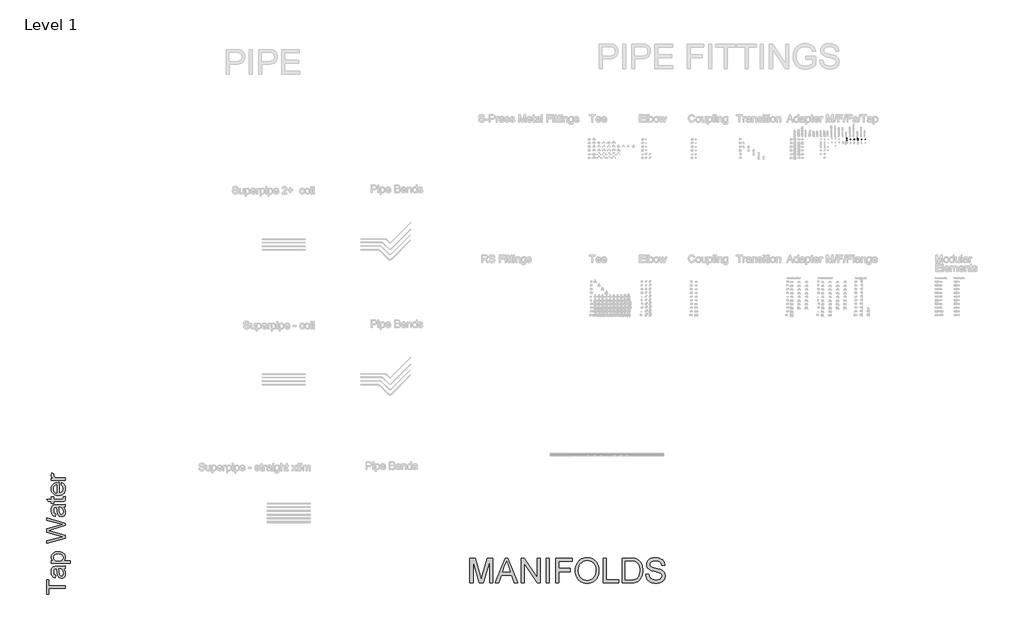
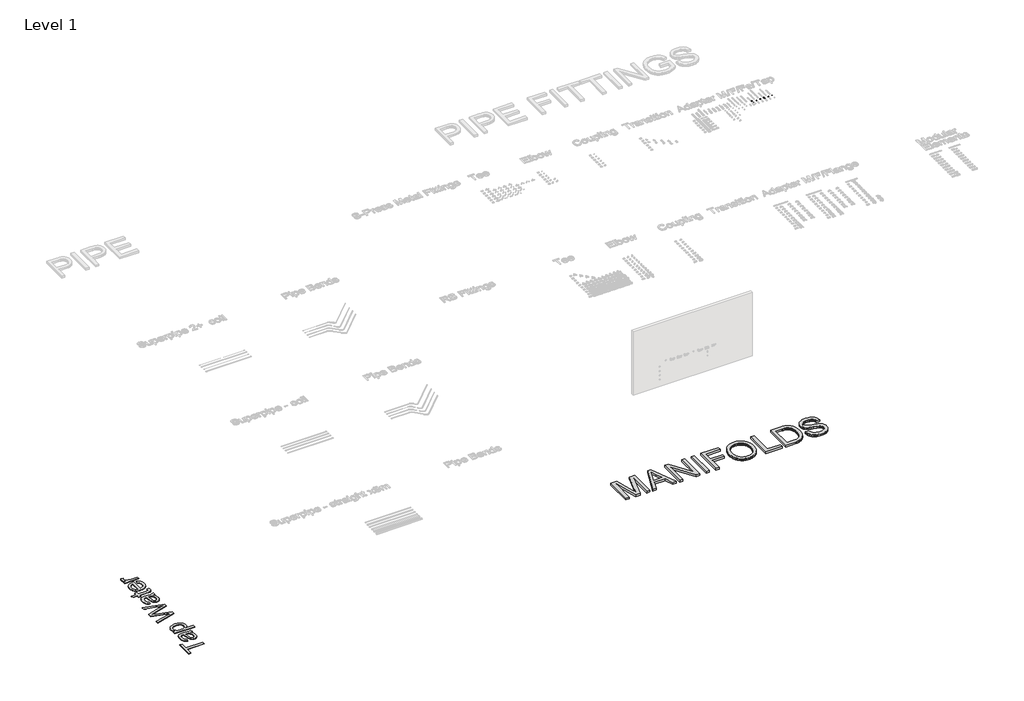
# One storey, part 7 of 57: 17 pipe fittings, 2 proxies.
"""IFC4 building model written with IfcOpenShell, lengths in millimetres."""

from ifc_helpers import new_model, si_unit, frame, origin, place, context, project, spatial, polyline, outline, extrude, transform, mapped, element, save
from components import pipe_fitting_ba7d6cd7, pipe_fitting_831a4182, pipe_fitting_687f7d2e, pipe_fitting_fd43bd29, pipe_fitting_d8af90f1, pipe_fitting_2b53eb9e, pipe_fitting_0ffa7dfd, manifold_cap_ft_4510c732, pipe_fitting_483da3ce

model = new_model("IFC4")

# Units and contexts
model_context = context("Model", 3, world=origin())
ifc_project = project(units=[si_unit("LENGTHUNIT", "METRE", prefix="MILLI")], contexts=[model_context])

# Site, building, storey
site = spatial("IfcSite", under=ifc_project)
building = spatial("IfcBuilding", under=site)
storey = spatial("IfcBuildingStorey", under=building, Name="Level 1", Elevation=27.3876384)

# Proxies
placement = place(None, origin())
element("IfcBuildingElementProxy", 1, Name="1500mm Arial - color", ObjectType="1500mm Arial - color", at=placement, inside=storey, context=model_context, shape_type="SweptSolid", body=[
    extrude(outline(polyline([(-29682.7797946, -6207.3028458), (-31001.2688653, -6207.3028458), (-31001.2688653, -6701.7362473), (-31189.6244468, -6701.7362473), (-31189.6244468, -5524.5138628), (-31001.2688653, -5524.5138628), (-31001.2688653, -6018.9472643), (-29682.7797946, -6018.9472643), (-29682.7797946, -6207.3028458)])), frame((0.0, 0.0, 27.3876384), z_axis=(0.0, 0.0, 1.0), x_axis=(1.0, 0.0, 0.0)), (0.0, 0.0, 1.0), 30.0),
    extrude(outline(polyline([(-29824.0464807, -4629.8248505), (-29782.1309259, -4674.488024), (-29746.8832322, -4719.8179836), (-29718.3033997, -4765.8147293), (-29696.3914284, -4812.4782611), (-29680.1356427, -4860.3374094), (-29668.5243673, -4909.9210046), (-29661.557602, -4961.2290466), (-29659.2353469, -5014.2615355), (-29664.8225547, -5098.127134), (-29671.8065644, -5136.1885502), (-29681.5841781, -5171.6690441), (-29694.1553956, -5204.568616), (-29709.5202171, -5234.8872658), (-29727.6786424, -5262.6249934), (-29748.6306717, -5287.7817989), (-29771.755504, -5310.1564968), (-29796.4323384, -5329.5479016), (-29822.6611751, -5345.9560134), (-29850.4420139, -5359.3808322), (-29879.7748548, -5369.8223579), (-29910.659698, -5377.2805905), (-29977.0853907, -5383.2471766), (-30017.0235798, -5380.9938994), (-30055.1683442, -5374.2340677), (-30091.5196838, -5362.9676816), (-30126.0775988, -5347.1947411), (-30158.0833323, -5327.7544769), (-30186.778128, -5305.4861199), (-30212.1619856, -5280.38967), (-30234.2349053, -5252.4651273), (-30270.1033999, -5190.1551144), (-30296.0390805, -5120.5794321), (-30310.4784488, -5052.7971745), (-30324.3659942, -4957.6077082), (-30338.6214215, -4854.0029413), (-30354.1644358, -4765.0214837), (-30370.995037, -4690.6633355), (-30389.1132253, -4630.9284965), (-30431.0517728, -4629.8248505), (-30476.7151254, -4633.0668106), (-30515.1128087, -4642.7926908), (-30546.2448225, -4659.0024912), (-30570.1111669, -4681.6962118), (-30593.9315261, -4720.9216296), (-30610.9460684, -4768.7003037), (-30621.1547938, -4825.0322342), (-30624.5577022, -4889.9174211), (-30622.2929287, -4950.2500683), (-30615.4986081, -5002.1214296), (-30604.1747404, -5045.531505), (-30588.3213257, -5080.4802946), (-30566.6967622, -5109.1980828), (-30538.0594481, -5133.9151544), (-30502.4093835, -5154.6315092), (-30459.7465684, -5171.3471474), (-30483.2910161, -5359.7027289), (-30537.5536104, -5345.3668274), (-30586.2979747, -5327.0072166), (-30629.5241092, -5304.6238965), (-30667.2320137, -5278.216867), (-30700.1804448, -5246.6479933), (-30729.1281593, -5208.7791404), (-30754.0751571, -5164.6103084), (-30775.0214382, -5114.1414972), (-30791.5991207, -5058.3958786), (-30803.4403224, -4998.3966244), (-30810.5450434, -4934.1437347), (-30812.9132837, -4865.6372094), (-30810.8209549, -4798.67119), (-30804.5439684, -4738.3040538), (-30794.0823241, -4684.535801), (-30779.4360222, -4637.3664314), (-30761.6282344, -4596.4050705), (-30741.6821324, -4561.2608436), (-30719.5977164, -4531.9337508), (-30695.3749863, -4508.4237921), (-30668.4161338, -4489.3629062), (-30638.1233508, -4473.3830321), (-30604.4966372, -4460.4841696), (-30567.535993, -4450.6663188), (-30502.4208798, -4443.7685314), (-30402.7248591, -4441.469269), (-30168.3840282, -4441.469269), (-29964.2555061, -4439.078036), (-29841.1529935, -4431.9043371), (-29760.2649398, -4417.7408803), (-29682.7797946, -4394.3803736), (-29682.7797946, -4582.7359551), (-29714.2337052, -4599.4745859), (-29748.2627897, -4612.9022787), (-29784.8670482, -4623.0190336), (-29824.0464807, -4629.8248505)]), holes=[polyline([(-30200.7576438, -4629.8248505), (-30184.4558729, -4686.7545893), (-30169.3957037, -4756.3762568), (-30143.0001705, -4933.6953785), (-30128.5608022, -5031.4140335), (-30112.4659649, -5095.7473974), (-30091.5886617, -5137.9158711), (-30078.1839615, -5154.8959244), (-30062.8018956, -5169.1398554), (-30045.9942869, -5180.4062415), (-30028.3129585, -5188.4536602), (-30009.7579104, -5193.2821114), (-29990.3291425, -5194.8915951), (-29961.0595313, -5191.3852198), (-29934.3191088, -5180.866094), (-29910.107875, -5163.3342177), (-29888.4258299, -5138.7895908), (-29870.5605605, -5107.4621397), (-29857.7996538, -5069.5817905), (-29850.1431097, -5025.1485433), (-29847.5909284, -4974.162398), (-29850.4075249, -4922.1070957), (-29858.8573145, -4872.9948493), (-29872.9402971, -4826.8256589), (-29892.6564728, -4783.5995245), (-29916.3733652, -4744.604033), (-29942.4584979, -4711.1267714), (-29970.911871, -4683.1677398), (-30001.7334844, -4660.7269381), (-30029.324634, -4647.6901199), (-30062.8018956, -4638.3781069), (-30102.1652691, -4632.7908991), (-30147.4147545, -4630.9284965), (-30200.7576438, -4629.8248505)])]), frame((0.0, 0.0, 27.3876384), z_axis=(0.0, 0.0, 1.0), x_axis=(1.0, 0.0, 0.0)), (0.0, 0.0, 1.0), 30.0),
    extrude(outline(polyline([(-29258.9797361, -4182.4803444), (-30789.3688361, -4182.4803444), (-30789.3688361, -3994.1247628), (-30604.6920745, -3994.1247628), (-30653.4939204, -3964.3263212), (-30695.7888535, -3932.6884696), (-30731.5768739, -3899.2112081), (-30760.8579814, -3863.8945365), (-30783.6321762, -3825.7267795), (-30799.8994582, -3783.6962616), (-30809.6598274, -3737.8029827), (-30812.9132837, -3688.0469428), (-30808.3607441, -3622.3570141), (-30794.703125, -3560.667802), (-30771.9404265, -3502.9793066), (-30740.0726487, -3449.291528), (-30699.927526, -3400.7770899), (-30652.3327929, -3358.6086162), (-30597.2884493, -3322.7861069), (-30534.7944954, -3293.309562), (-30466.9892452, -3270.2939447), (-30396.0110127, -3253.854218), (-30321.8597981, -3243.990382), (-30244.5356012, -3240.7024367), (-30161.8656191, -3244.4157456), (-30083.4492726, -3255.5556723), (-30009.2865616, -3274.1222167), (-29939.3774862, -3300.1153789), (-29875.54996, -3333.1787733), (-29819.6318968, -3372.956014), (-29771.6232964, -3419.4471011), (-29731.5241589, -3472.6520347), (-29699.8978037, -3529.9611517), (-29677.3075499, -3588.7647894), (-29663.7533976, -3649.0629477), (-29659.2353469, -3710.8556265), (-29662.258877, -3755.3118664), (-29671.3294675, -3797.4458512), (-29686.4471182, -3837.2575808), (-29707.6118292, -3874.7470554), (-29733.3980578, -3909.4544224), (-29762.3802613, -3940.9198293), (-29794.5584395, -3969.1432761), (-29829.9325926, -3994.1247628), (-29258.9797361, -3994.1247628), (-29258.9797361, -4182.4803444)]), holes=[polyline([(-30227.2451474, -3994.1247628), (-30136.4702651, -3989.0318965), (-30058.3873116, -3973.7532974), (-30024.1053082, -3962.294348), (-29992.996287, -3948.2889655), (-29965.060248, -3931.7371498), (-29940.2971912, -3912.6389009), (-29899.7382012, -3869.7231669), (-29870.7674941, -3822.4618268), (-29853.3850698, -3770.8548807), (-29847.5909284, -3714.9023285), (-29853.5920034, -3658.1450344), (-29861.0933473, -3631.3442563), (-29871.5952286, -3605.5953907), (-29901.6006038, -3557.2533972), (-29943.6081291, -3513.1190541), (-29969.2621502, -3493.4172489), (-29998.2156128, -3476.3423509), (-30030.4685171, -3461.8943604), (-30066.020863, -3450.0732772), (-30104.8726506, -3440.8791014), (-30147.0238799, -3434.311833), (-30241.2246632, -3429.0580182), (-30331.2177963, -3434.1853736), (-30409.162794, -3449.5674395), (-30443.6172422, -3461.1039889), (-30475.0596564, -3475.204216), (-30503.4900369, -3491.8681208), (-30528.9083835, -3511.0957032), (-30570.7549604, -3554.114904), (-30600.6453725, -3601.1348215), (-30618.5796198, -3652.1554557), (-30624.5577022, -3707.1768066), (-30622.968337, -3735.0065047), (-30618.2002415, -3762.0257128), (-30610.2534156, -3788.2344309), (-30599.1278593, -3813.632659), (-30567.3405557, -3861.997645), (-30522.8383305, -3907.120671), (-30495.9685745, -3927.512255), (-30466.2189922, -3945.1849612), (-30433.5895837, -3960.1387895), (-30398.0803489, -3972.3737399), (-30359.6912879, -3981.8898124), (-30318.4224007, -3988.6870071), (-30227.2451474, -3994.1247628)])]), frame((0.0, 0.0, 27.3876384), z_axis=(0.0, 0.0, 1.0), x_axis=(1.0, 0.0, 0.0)), (0.0, 0.0, 1.0), 30.0),
    extrude(outline(polyline([(-29682.7797946, -2146.9892651), (-31189.6244468, -2557.9134537), (-31189.6244468, -2363.6717602), (-30199.2861158, -2125.2842273), (-29893.5761778, -2051.7078283), (-30163.9694443, -1972.9810813), (-31189.6244468, -1674.2609012), (-31189.6244468, -1394.3027029), (-30446.1349346, -1177.2523258), (-30308.2711569, -1127.7032195), (-30170.2234382, -1084.2701515), (-30031.9917785, -1046.9531216), (-29893.5761778, -1015.7521299), (-30190.4569479, -944.3830228), (-31189.6244468, -703.788198), (-31189.6244468, -509.5465045), (-29682.7797946, -920.8385751), (-29682.7797946, -1122.0700265), (-30845.2868993, -1483.3301458), (-31007.5228592, -1533.7299791), (-30812.1775198, -1590.3838063), (-29682.7797946, -1919.638192), (-29682.7797946, -2146.9892651)])), frame((0.0, 0.0, 27.3876384), z_axis=(0.0, 0.0, 1.0), x_axis=(1.0, 0.0, 0.0)), (0.0, 0.0, 1.0), 30.0),
    extrude(outline(polyline([(-29824.0464807, 361.5980601), (-29782.1309259, 316.9348866), (-29746.8832322, 271.604927), (-29718.3033997, 225.6081813), (-29696.3914284, 178.9446495), (-29680.1356427, 131.0855011), (-29668.5243673, 81.501906), (-29661.557602, 30.193864), (-29659.2353469, -22.8386249), (-29664.8225547, -106.7042235), (-29671.8065644, -144.7656396), (-29681.5841781, -180.2461336), (-29694.1553956, -213.1457055), (-29709.5202171, -243.4643552), (-29727.6786424, -271.2020828), (-29748.6306717, -296.3588883), (-29771.755504, -318.7335862), (-29796.4323384, -338.1249911), (-29822.6611751, -354.5331029), (-29850.4420139, -367.9579216), (-29879.7748548, -378.3994473), (-29910.659698, -385.85768), (-29977.0853907, -391.8242661), (-30017.0235798, -389.5709888), (-30055.1683442, -382.8111572), (-30091.5196838, -371.5447711), (-30126.0775988, -355.7718305), (-30158.0833323, -336.3315664), (-30186.778128, -314.0632093), (-30212.1619856, -288.9667595), (-30234.2349053, -261.0422168), (-30270.1033999, -198.7322038), (-30296.0390805, -129.1565215), (-30310.4784488, -61.3742639), (-30324.3659942, 33.8152024), (-30338.6214215, 137.4199692), (-30354.1644358, 226.4014268), (-30370.995037, 300.7595751), (-30389.1132253, 360.4944141), (-30431.0517728, 361.5980601), (-30476.7151254, 358.3561), (-30515.1128087, 348.6302197), (-30546.2448225, 332.4204193), (-30570.1111669, 309.7266987), (-30593.9315261, 270.501281), (-30610.9460684, 222.7226069), (-30621.1547938, 166.3906764), (-30624.5577022, 101.5054895), (-30622.2929287, 41.1728423), (-30615.4986081, -10.6985191), (-30604.1747404, -54.1085945), (-30588.3213257, -89.057384), (-30566.6967622, -117.7751723), (-30538.0594481, -142.4922438), (-30502.4093835, -163.2085987), (-30459.7465684, -179.9242368), (-30483.2910161, -368.2798184), (-30537.5536104, -353.9439169), (-30586.2979747, -335.5843061), (-30629.5241092, -313.2009859), (-30667.2320137, -286.7939564), (-30700.1804448, -255.2250827), (-30729.1281593, -217.3562299), (-30754.0751571, -173.1873978), (-30775.0214382, -122.7185866), (-30791.5991207, -66.972968), (-30803.4403224, -6.9737139), (-30810.5450434, 57.2791759), (-30812.9132837, 125.7857012), (-30810.8209549, 192.7517206), (-30804.5439684, 253.1188567), (-30794.0823241, 306.8871096), (-30779.4360222, 354.0564792), (-30761.6282344, 395.0178401), (-30741.6821324, 430.1620669), (-30719.5977164, 459.4891597), (-30695.3749863, 482.9991185), (-30668.4161338, 502.0600043), (-30638.1233508, 518.0398785), (-30604.4966372, 530.938741), (-30567.535993, 540.7565917), (-30502.4208798, 547.6543791), (-30402.7248591, 549.9536416), (-30168.3840282, 549.9536416), (-29964.2555061, 552.3448746), (-29841.1529935, 559.5185735), (-29760.2649398, 573.6820303), (-29682.7797946, 597.042537), (-29682.7797946, 408.6869554), (-29714.2337052, 391.9483247), (-29748.2627897, 378.5206318), (-29784.8670482, 368.403877), (-29824.0464807, 361.5980601)]), holes=[polyline([(-30200.7576438, 361.5980601), (-30184.4558729, 304.6683213), (-30169.3957037, 235.0466537), (-30143.0001705, 57.727532), (-30128.5608022, -39.9911229), (-30112.4659649, -104.3244868), (-30091.5886617, -146.4929605), (-30078.1839615, -163.4730139), (-30062.8018956, -177.7169449), (-30045.9942869, -188.983331), (-30028.3129585, -197.0307496), (-30009.7579104, -201.8592008), (-29990.3291425, -203.4686845), (-29961.0595313, -199.9623093), (-29934.3191088, -189.4431835), (-29910.107875, -171.9113071), (-29888.4258299, -147.3666803), (-29870.5605605, -116.0392291), (-29857.7996538, -78.1588799), (-29850.1431097, -33.7256327), (-29847.5909284, 17.2605126), (-29850.4075249, 69.3158149), (-29858.8573145, 118.4280612), (-29872.9402971, 164.5972516), (-29892.6564728, 207.8233861), (-29916.3733652, 246.8188776), (-29942.4584979, 280.2961391), (-29970.911871, 308.2551708), (-30001.7334844, 330.6959725), (-30029.324634, 343.7327907), (-30062.8018956, 353.0448037), (-30102.1652691, 358.6320115), (-30147.4147545, 360.4944141), (-30200.7576438, 361.5980601)])]), frame((0.0, 0.0, 27.3876384), z_axis=(0.0, 0.0, 1.0), x_axis=(1.0, 0.0, 0.0)), (0.0, 0.0, 1.0), 30.0),
    extrude(outline(polyline([(-29839.8654065, 1209.1981769), (-29677.2615646, 1232.7426246), (-29663.7419013, 1158.1545501), (-29659.2353469, 1091.8438205), (-29661.18972, 1043.7662422), (-29667.0528393, 1001.4368202), (-29676.8247048, 964.8555543), (-29690.5053165, 934.0224446), (-29707.3589104, 908.1327491), (-29726.6497225, 886.3817262), (-29748.3777528, 868.7693757), (-29772.5430014, 855.2956976), (-29804.9396096, 845.3168985), (-29851.3617189, 838.1891848), (-29911.8093292, 833.9125566), (-29986.2824406, 832.4870139), (-30601.0132545, 832.4870139), (-30601.0132545, 691.2203277), (-30789.3688361, 691.2203277), (-30789.3688361, 832.4870139), (-31058.2905745, 832.4870139), (-31169.0230551, 1020.8425954), (-30789.3688361, 1020.8425954), (-30789.3688361, 1209.1981769), (-30601.0132545, 1209.1981769), (-30601.0132545, 1020.8425954), (-29991.8006705, 1020.8425954), (-29929.8125543, 1023.3257989), (-29894.6798238, 1030.7754093), (-29875.2280633, 1043.7892349), (-29860.2828572, 1062.9650839), (-29850.7639106, 1090.1423663), (-29847.5909284, 1127.160492), (-29839.8654065, 1209.1981769)])), frame((0.0, 0.0, 27.3876384), z_axis=(0.0, 0.0, 1.0), x_axis=(1.0, 0.0, 0.0)), (0.0, 0.0, 1.0), 30.0),
    extrude(outline(polyline([(-30012.4020622, 2172.3132403), (-29988.8576146, 2356.9900019), (-29914.8903409, 2328.6745846), (-29881.2003976, 2310.800693), (-29849.7062499, 2290.449346), (-29820.4078979, 2267.6205438), (-29793.3053415, 2242.3142862), (-29768.3985808, 2214.5305733), (-29745.6876157, 2184.2694052), (-29725.4253652, 2151.6802337), (-29707.8647481, 2116.9125111), (-29693.0057644, 2079.9662373), (-29680.8484141, 2040.8414123), (-29664.6386137, 1956.0561087), (-29659.2353469, 1862.5566004), (-29661.5662242, 1802.5286054), (-29668.5588562, 1745.685089), (-29680.2132428, 1692.0260511), (-29696.5293841, 1641.5514918), (-29717.5072801, 1594.2614109), (-29743.1469307, 1550.1558086), (-29773.448336, 1509.2346848), (-29808.4114959, 1471.4980395), (-29847.5823062, 1437.6126589), (-29890.5066624, 1408.245329), (-29937.1845646, 1383.3960498), (-29987.6160128, 1363.0648214), (-30041.801007, 1347.2516438), (-30099.7395472, 1335.9565169), (-30161.4316333, 1329.1794408), (-30226.8772654, 1326.9204154), (-30294.5503081, 1329.2024334), (-30358.3261008, 1336.0484874), (-30418.2046437, 1347.4585774), (-30474.1859367, 1363.4327034), (-30526.2699798, 1383.9708654), (-30574.456773, 1409.0730635), (-30618.7463163, 1438.7392975), (-30659.1386098, 1472.9695675), (-30695.179549, 1510.8384204), (-30726.4150296, 1551.420403), (-30752.8450517, 1594.7155153), (-30774.4696153, 1640.7237573), (-30791.2887202, 1689.445129), (-30803.3023666, 1740.8796305), (-30810.5105545, 1795.0272616), (-30812.9132837, 1851.8880225), (-30810.5163026, 1906.8892549), (-30803.3253592, 1959.3210614), (-30791.3404536, 2009.1834422), (-30774.5615857, 2056.4763971), (-30752.9887556, 2101.1999262), (-30726.6219633, 2143.3540295), (-30695.4612086, 2182.938707), (-30659.5064918, 2219.9539587), (-30619.2061688, 2253.4513388), (-30575.008596, 2282.4824016), (-30526.9137733, 2307.047147), (-30474.9217007, 2327.145575), (-30419.0323782, 2342.7776858), (-30359.2458058, 2353.9434791), (-30295.5619836, 2360.6429551), (-30227.9809114, 2362.8761138), (-30177.2131961, 2361.7724678), (-30177.2131961, 1515.2759969), (-30102.0503059, 1526.1859974), (-30067.969488, 1535.6848254), (-30036.2224214, 1547.8795388), (-30006.8091063, 1562.7701373), (-29979.7295425, 1580.3566211), (-29954.9837302, 1600.6389902), (-29932.5716693, 1623.6172445), (-29895.3925952, 1675.2701759), (-29868.8361136, 1732.9241823), (-29852.9022247, 1796.5792638), (-29847.5909284, 1866.2354203), (-29850.0511392, 1918.3367079), (-29857.4317718, 1966.483264), (-29869.732826, 2010.6750887), (-29886.9543019, 2050.9121819), (-29909.556052, 2087.1945437), (-29937.9979287, 2119.522174), (-29972.2799321, 2147.8950729), (-30012.4020622, 2172.3132403)]), holes=[polyline([(-30365.5687776, 1515.2759969), (-30365.5687776, 2174.5205323), (-30418.8656817, 2164.8406373), (-30465.0808573, 2149.0447041), (-30504.2143045, 2127.1327328), (-30536.2660234, 2099.1047233), (-30556.9593856, 2074.3071775), (-30574.8936329, 2047.7391997), (-30590.0687652, 2019.4007898), (-30602.4847825, 1989.2919477), (-30619.0394723, 1923.7629673), (-30624.5577022, 1851.1522585), (-30620.1546146, 1784.9220031), (-30606.9453517, 1724.1869849), (-30584.9299135, 1668.9472041), (-30554.1083001, 1619.2026606), (-30515.9060542, 1577.4595504), (-30471.7487185, 1546.2240698), (-30421.6362929, 1525.4962186), (-30365.5687776, 1515.2759969)])]), frame((0.0, 0.0, 27.3876384), z_axis=(0.0, 0.0, 1.0), x_axis=(1.0, 0.0, 0.0)), (0.0, 0.0, 1.0), 30.0),
    extrude(outline(polyline([(-29682.7797946, 2551.2316954), (-30789.3688361, 2551.2316954), (-30789.3688361, 2716.0428292), (-30625.6613482, 2716.0428292), (-30677.992562, 2747.0828725), (-30720.574903, 2776.9272994), (-30753.408371, 2805.5761098), (-30776.4929662, 2833.0293037), (-30792.4268551, 2860.5284828), (-30803.8082044, 2889.3152489), (-30810.6370139, 2919.389602), (-30812.9132837, 2950.7515421), (-30809.280449, 2997.4725555), (-30798.3819449, 3044.5614509), (-30780.2177714, 3092.0182283), (-30754.7879285, 3139.8428876), (-30585.9300927, 3076.9350665), (-30602.8296719, 3043.8256869), (-30614.9007998, 3010.7163073), (-30622.1434766, 2977.6069278), (-30624.5577022, 2944.4975482), (-30622.2354471, 2915.6303079), (-30615.2686818, 2888.2575882), (-30603.6574064, 2862.3793891), (-30587.4016207, 2837.9957106), (-30567.0301552, 2816.0262577), (-30543.0718403, 2797.3907354), (-30515.5266759, 2782.0891436), (-30484.3946621, 2770.1214825), (-30432.9831532, 2756.7627675), (-30379.1804114, 2747.2208283), (-30322.9864367, 2741.4956647), (-30264.4012289, 2739.5872769), (-29682.7797946, 2739.5872769), (-29682.7797946, 2551.2316954)])), frame((0.0, 0.0, 27.3876384), z_axis=(0.0, 0.0, 1.0), x_axis=(1.0, 0.0, 0.0)), (0.0, 0.0, 1.0), 30.0),
])
element("IfcBuildingElementProxy", 2, Name="2000mm Arial", ObjectType="2000mm Arial", at=placement, inside=storey, context=model_context, shape_type="SweptSolid", body=[
    extrude(outline(polyline([(3112.7151983, -5768.0795182), (3112.7151983, -3758.9533152), (3544.8539153, -3758.9533152), (3955.9007312, -5175.053742), (4038.7968075, -5470.8308661), (4128.5600143, -5150.5282757), (4532.7396997, -3758.9533152), (4964.8784167, -3758.9533152), (4964.8784167, -5768.0795182), (4713.7376413, -5768.0795182), (4713.7376413, -4010.0940906), (4209.0035439, -5768.0795182), (3868.590071, -5768.0795182), (3363.8559737, -4010.0940906), (3363.8559737, -5768.0795182), (3112.7151983, -5768.0795182)])), frame((0.0, 0.0, 27.3876384), z_axis=(0.0, 0.0, 1.0), x_axis=(1.0, 0.0, 0.0)), (0.0, 0.0, 1.0), 150.0),
    extrude(outline(polyline([(5170.4018246, -5768.0795182), (5972.3845741, -3758.9533152), (6186.2466407, -3758.9533152), (6988.2293901, -5768.0795182), (6722.8638443, -5768.0795182), (6492.81497, -5140.2275798), (5665.3257355, -5140.2275798), (5435.7673705, -5768.0795182), (5170.4018246, -5768.0795182)]), holes=[polyline([(5757.5414889, -4889.0868044), (6401.0897258, -4889.0868044), (6220.0917842, -4395.1439122), (6079.3156074, -4010.0940906), (5954.235729, -4351.9790915), (5757.5414889, -4889.0868044)])]), frame((0.0, 0.0, 27.3876384), z_axis=(0.0, 0.0, 1.0), x_axis=(1.0, 0.0, 0.0)), (0.0, 0.0, 1.0), 150.0),
    extrude(outline(polyline([(7256.537992, -5768.0795182), (7256.537992, -3758.9533152), (7525.3371031, -3758.9533152), (8575.0270627, -5350.656081), (8575.0270627, -3758.9533152), (8826.167838, -3758.9533152), (8826.167838, -5768.0795182), (8557.3687269, -5768.0795182), (7507.6787673, -4175.8862431), (7507.6787673, -5768.0795182), (7256.537992, -5768.0795182)])), frame((0.0, 0.0, 27.3876384), z_axis=(0.0, 0.0, 1.0), x_axis=(1.0, 0.0, 0.0)), (0.0, 0.0, 1.0), 150.0),
    extrude(outline(polyline([(9297.0567919, -5768.0795182), (9297.0567919, -3758.9533152), (9548.1975672, -3758.9533152), (9548.1975672, -5768.0795182), (9297.0567919, -5768.0795182)])), frame((0.0, 0.0, 27.3876384), z_axis=(0.0, 0.0, 1.0), x_axis=(1.0, 0.0, 0.0)), (0.0, 0.0, 1.0), 150.0),
    extrude(outline(polyline([(10050.479118, -5768.0795182), (10050.479118, -3758.9533152), (11400.3607856, -3758.9533152), (11400.3607856, -4010.0940906), (10301.6198934, -4010.0940906), (10301.6198934, -4606.5534321), (11243.397801, -4606.5534321), (11243.397801, -4857.6942075), (10301.6198934, -4857.6942075), (10301.6198934, -5768.0795182), (10050.479118, -5768.0795182)])), frame((0.0, 0.0, 27.3876384), z_axis=(0.0, 0.0, 1.0), x_axis=(1.0, 0.0, 0.0)), (0.0, 0.0, 1.0), 150.0),
    extrude(outline(polyline([(11651.501561, -4790.0039204), (11655.6862187, -4668.7944672), (11668.2401918, -4554.3448456), (11689.1634803, -4446.6550558), (11718.4560841, -4345.7250975), (11756.1180034, -4251.554971), (11802.149238, -4164.1446761), (11856.5497881, -4083.4942129), (11919.3196535, -4009.6035813), (11988.7037306, -3943.4997853), (12062.9469158, -3886.2098287), (12142.0492089, -3837.7337117), (12226.0106101, -3798.0714341), (12314.8311194, -3767.2229959), (12408.5107366, -3745.1883973), (12507.0494618, -3731.967638), (12610.4472951, -3727.5607183), (12678.8810104, -3729.6300545), (12745.6132715, -3735.8380632), (12810.6440783, -3746.1847443), (12873.973431, -3760.6700979), (12935.6013294, -3779.2941239), (12995.5277736, -3802.0568223), (13053.7527635, -3828.9581932), (13110.2762992, -3859.9982366), (13164.2936388, -3894.7400925), (13215.0000405, -3932.7469011), (13262.3955042, -3974.0186625), (13306.48003, -4018.5553765), (13347.2536178, -4066.3570432), (13384.7162676, -4117.4236627), (13418.8679795, -4171.7552349), (13449.7087534, -4229.3517597), (13477.0699768, -4289.577108), (13500.7830371, -4351.7951505), (13520.8479342, -4416.005887), (13537.2646683, -4482.2093178), (13550.0332392, -4550.4054426), (13559.153647, -4620.5942616), (13564.6258917, -4692.7757747), (13566.4499732, -4766.949982), (13564.5300891, -4842.0975437), (13558.7704366, -4915.2370829), (13549.1710158, -4986.3685995), (13535.7318266, -5055.4920936), (13518.4528692, -5122.6075651), (13497.3341434, -5187.715014), (13472.3756493, -5250.8144404), (13443.5773868, -5311.9058442), (13411.2574207, -5370.1691552), (13375.7338156, -5424.7843031), (13337.0065714, -5475.7512878), (13295.0756881, -5523.0701094), (13249.9411658, -5566.740768), (13201.6030045, -5606.7632633), (13150.0612041, -5643.1375956), (13095.3157647, -5675.8637648), (13038.4128507, -5704.8344719), (12980.3986265, -5729.9424181), (12921.2730921, -5751.1876033), (12861.0362475, -5768.5700276), (12799.6880927, -5782.0896909), (12737.2286277, -5791.7465933), (12673.6578525, -5797.5407347), (12608.9757671, -5799.4721152), (12539.2774574, -5797.3376332), (12471.4492146, -5790.9341872), (12405.4910385, -5780.2617772), (12341.4029293, -5765.3204033), (12279.1848869, -5746.1100653), (12218.8369112, -5722.6307634), (12160.3590024, -5694.8824975), (12103.7511604, -5662.8652676), (12049.7644776, -5627.1577215), (11999.1500464, -5588.3385068), (11951.9078669, -5546.4076235), (11908.037939, -5501.3650717), (11867.5402627, -5453.2108514), (11830.414838, -5401.9449625), (11796.6616649, -5347.5674051), (11766.2807435, -5290.0781792), (11739.3793726, -5230.6000912), (11716.0648512, -5170.2559477), (11696.3371792, -5109.0457486), (11680.1963566, -5046.969494), (11667.6423835, -4984.0271839), (11658.6752599, -4920.2188183), (11653.2949857, -4855.5443971), (11651.501561, -4790.0039204)]), holes=[polyline([(11902.6423364, -4792.456467), (11905.7808297, -4878.0426804), (11915.1963095, -4958.9537267), (11930.8887758, -5035.189606), (11952.8582287, -5106.7503182), (11981.1046682, -5173.6358635), (12015.6280941, -5235.8462417), (12056.4285067, -5293.3814529), (12103.5059057, -5346.2414971), (12155.3197855, -5393.606304), (12210.3296401, -5434.6558033), (12268.5354695, -5469.389995), (12329.9372738, -5497.8088791), (12394.5350529, -5519.9124557), (12462.3288068, -5535.7007246), (12533.3185355, -5545.173686), (12607.5042391, -5548.3313398), (12683.0465076, -5545.1430292), (12755.162875, -5535.5780973), (12823.8533412, -5519.6365442), (12889.1179064, -5497.3183698), (12950.9565706, -5468.6235742), (13009.3693336, -5433.5521573), (13064.3561956, -5392.1041192), (13115.9171565, -5344.2794598), (13162.6496662, -5290.5916811), (13203.1511746, -5231.5542851), (13237.4216817, -5167.1672717), (13265.4611875, -5097.430641), (13287.269692, -5022.344393), (13302.8471953, -4941.9085276), (13312.1936972, -4856.1230448), (13315.3091979, -4764.9879447), (13309.9749089, -4650.0554781), (13293.9720421, -4542.6645923), (13267.3005975, -4442.8152874), (13249.9641585, -4395.7187278), (13229.960575, -4350.5075635), (13207.3933138, -4307.4845306), (13182.3658419, -4266.9523653), (13154.878159, -4228.9110678), (13124.9302654, -4193.3606379), (13092.5221608, -4160.3010757), (13057.6538455, -4129.7323811), (13020.3253193, -4101.6545543), (12980.5365822, -4076.0675951), (12938.8854426, -4053.2474151), (12895.9697086, -4033.4699257), (12851.7893802, -4016.735127), (12806.3444575, -4003.043019), (12759.6349405, -3992.3936017), (12711.660829, -3984.786875), (12611.9188231, -3978.7014937), (12540.5880371, -3981.6330533), (12471.7864398, -3990.4277323), (12405.5140312, -4005.0855305), (12341.7708113, -4025.6064481), (12280.5567801, -4051.9904849), (12221.8719377, -4084.2376411), (12165.716284, -4122.3479165), (12112.089819, -4166.3213112), (12063.0005652, -4217.1465081), (12020.4565453, -4275.81219), (11984.4577593, -4342.318357), (11955.004207, -4416.6650089), (11932.0958886, -4498.8521459), (11915.732804, -4588.8797679), (11905.9149533, -4686.747875), (11902.6423364, -4792.456467)])]), frame((0.0, 0.0, 27.3876384), z_axis=(0.0, 0.0, 1.0), x_axis=(1.0, 0.0, 0.0)), (0.0, 0.0, 1.0), 150.0),
    extrude(outline(polyline([(13911.7685394, -5768.0795182), (13911.7685394, -3758.9533152), (14162.9093147, -3758.9533152), (14162.9093147, -5516.9387429), (15167.4724162, -5516.9387429), (15167.4724162, -5768.0795182), (13911.7685394, -5768.0795182)])), frame((0.0, 0.0, 27.3876384), z_axis=(0.0, 0.0, 1.0), x_axis=(1.0, 0.0, 0.0)), (0.0, 0.0, 1.0), 150.0),
    extrude(outline(polyline([(15450.0057885, -5768.0795182), (15450.0057885, -3758.9533152), (16143.0954675, -3758.9533152), (16253.6133502, -3760.7620684), (16350.2130307, -3766.1883278), (16432.8945092, -3775.2320935), (16501.6577854, -3787.8933655), (16584.86043, -3811.7750384), (16661.8090806, -3843.6888015), (16732.5037374, -3883.6346548), (16796.9444002, -3931.6125983), (16835.4263897, -3966.3774469), (16871.4098474, -4003.4722147), (16904.8947732, -4042.8969018), (16935.8811671, -4084.6515083), (16964.3690291, -4128.7360341), (16990.3583592, -4175.1504791), (17013.8491574, -4223.8948435), (17034.8414238, -4274.9691271), (17069.3916745, -4383.1877474), (17094.070425, -4498.8866349), (17108.8776753, -4622.0657896), (17113.8134254, -4752.7252115), (17110.4718306, -4863.7795888), (17100.4470462, -4968.3653744), (17083.7390723, -5066.4825682), (17060.3479088, -5158.1311702), (17031.7144268, -5242.7287007), (16999.2794976, -5319.6926798), (16963.043121, -5389.0231074), (16923.0052972, -5450.7199837), (16880.0857311, -5505.5190726), (16835.2041277, -5554.156138), (16788.360487, -5596.6311801), (16739.554809, -5632.9441987), (16687.2082667, -5664.168183), (16629.7420334, -5691.3761222), (16567.156109, -5714.5680163), (16499.4504934, -5733.7438653), (16426.5638732, -5748.7657135), (16348.4349344, -5759.495605), (16265.0636773, -5765.9335399), (16176.4501017, -5768.0795182), (15450.0057885, -5768.0795182)]), holes=[polyline([(15701.1465639, -5516.9387429), (16145.5480141, -5516.9387429), (16243.006086, -5514.6701372), (16329.3663843, -5507.8643203), (16404.6289092, -5496.5212921), (16468.7936605, -5480.6410527), (16524.4051555, -5460.6221408), (16574.0079111, -5436.8630952), (16617.6019276, -5409.3639161), (16655.1872047, -5378.1246033), (16701.5250077, -5327.7707553), (16742.4365513, -5269.4154738), (16777.9218354, -5203.0587589), (16807.9808601, -5128.7006106), (16831.9085182, -5046.1877448), (16848.9997025, -4955.3668772), (16859.2544131, -4856.2380079), (16862.67265, -4748.8011369), (16860.9980205, -4673.6612394), (16855.974132, -4602.9972395), (16847.6009845, -4536.8091372), (16835.878578, -4475.0969325), (16820.8069125, -4417.8606254), (16802.3859881, -4365.100216), (16780.6158046, -4316.8157041), (16755.4963621, -4273.0070898), (16727.9780224, -4233.153207), (16699.0111474, -4196.7328895), (16668.595737, -4163.7461373), (16636.7317913, -4134.1929503), (16603.4193102, -4108.0733287), (16568.6582938, -4085.3872723), (16532.448742, -4066.1347812), (16494.7906548, -4050.3158554), (16430.9631287, -4032.7188333), (16350.3356581, -4020.1495318), (16252.908243, -4012.6079509), (16138.6808835, -4010.0940906), (15701.1465639, -4010.0940906), (15701.1465639, -5516.9387429)])]), frame((0.0, 0.0, 27.3876384), z_axis=(0.0, 0.0, 1.0), x_axis=(1.0, 0.0, 0.0)), (0.0, 0.0, 1.0), 150.0),
    extrude(outline(polyline([(17364.9542008, -5077.442386), (17616.0949761, -5077.442386), (17627.5912885, -5150.5436041), (17644.9123991, -5216.8083485), (17668.058308, -5276.2366191), (17697.0290151, -5328.828416), (17733.2960484, -5375.6413999), (17778.330936, -5417.7332315), (17832.1336778, -5455.1039108), (17894.7042738, -5487.7534379), (17963.7434616, -5514.25627), (18036.9519786, -5533.1868643), (18114.3298249, -5544.5452209), (18195.8770005, -5548.3313398), (18268.0125284, -5545.4649259), (18335.794786, -5536.8656843), (18399.2237734, -5522.5336149), (18458.2994904, -5502.4687177), (18511.5657376, -5477.3914284), (18557.5663155, -5448.0221824), (18596.3012239, -5414.3609799), (18627.7704629, -5376.4078207), (18652.1273166, -5335.8028455), (18669.5250693, -5294.1861948), (18679.9637209, -5251.5578686), (18683.4432715, -5207.9178669), (18680.8374407, -5164.4618062), (18673.0199483, -5123.856831), (18659.9907943, -5086.1029413), (18641.7499787, -5051.200137), (18615.446416, -5018.9644771), (18578.2290209, -4989.2120208), (18530.0977932, -4961.9427679), (18471.0527329, -4937.1567185), (18338.4312737, -4897.7320313), (18105.3780297, -4841.262145), (17974.5499952, -4809.1491126), (17865.3350279, -4777.8025009), (17777.7331278, -4747.22231), (17711.7442949, -4717.40854), (17644.6824728, -4677.401373), (17586.7257302, -4632.9183084), (17537.8740669, -4583.9593463), (17498.127483, -4530.5244865), (17467.3326943, -4473.165552), (17445.3364167, -4412.434366), (17432.1386501, -4348.3309283), (17427.7393946, -4280.8552391), (17433.1809825, -4206.0678951), (17449.505746, -4133.7637547), (17476.7136852, -4063.9428177), (17514.8048001, -3996.6050841), (17537.8242496, -3964.5533653), (17563.3498951, -3934.4943406), (17621.9197744, -3880.3543736), (17690.5144381, -3834.1851833), (17769.1338861, -3795.9867694), (17855.1263025, -3766.0503721), (17945.8398711, -3744.6672311), (18041.2745921, -3731.8373465), (18141.4304653, -3727.5607183), (18250.6914178, -3732.0366159), (18353.3304945, -3745.4643087), (18449.3476952, -3767.8437968), (18538.74302, -3799.17508), (18619.861, -3839.182247), (18691.046166, -3887.5893862), (18722.9139439, -3914.9429454), (18752.2985182, -3944.3964976), (18779.1998891, -3975.9500429), (18803.6180566, -4009.6035813), (18844.6062422, -4081.3099135), (18874.8645363, -4157.6147707), (18894.3929389, -4238.5181528), (18903.1914499, -4324.0200598), (18652.0506746, -4324.0200598), (18645.2142008, -4282.6486638), (18635.2507301, -4243.8830985), (18622.1602624, -4207.7233641), (18605.9427978, -4174.1694605), (18586.5983362, -4143.2213876), (18564.1268777, -4114.8791456), (18538.5284222, -4089.1427343), (18509.8029698, -4066.0121539), (18477.6976015, -4045.5487179), (18441.9593985, -4027.81374), (18402.5883608, -4012.8072203), (18359.5844884, -4000.5291587), (18312.9477813, -3990.9795553), (18262.6782395, -3984.15841), (18151.2406518, -3978.7014937), (18036.2468715, -3984.0970963), (17985.0269678, -3990.8415995), (17937.9917219, -4000.2839041), (17895.1411337, -4012.4240099), (17856.4752032, -4027.2619171), (17821.9939303, -4044.7976255), (17791.6973152, -4065.0311352), (17765.2557968, -4087.1730328), (17742.3398141, -4110.4339048), (17722.9493673, -4134.8137512), (17707.0844563, -4160.312572), (17694.745081, -4186.9303672), (17685.9312416, -4214.6671368), (17680.6429379, -4243.5228808), (17678.88017, -4273.4975992), (17683.8772337, -4324.1120303), (17698.8684251, -4370.0053092), (17723.8537439, -4411.1774359), (17758.8331903, -4447.6284102), (17782.4082948, -4464.8422219), (17813.8928622, -4482.1480041), (17900.5903857, -4517.03548), (18018.9257609, -4552.2908378), (18168.8989876, -4587.9140777), (18321.0181926, -4622.6482694), (18445.7915026, -4655.2364828), (18543.2189176, -4685.6787179), (18613.3004377, -4713.9749747), (18690.2950736, -4756.863884), (18756.4678475, -4805.0870822), (18811.8187594, -4858.6445693), (18856.3478092, -4917.5363454), (18890.5761632, -4981.455842), (18915.0249874, -5050.096491), (18929.694282, -5123.4582922), (18934.5840469, -5201.5412457), (18928.958518, -5280.09938), (18912.0819315, -5356.358252), (18883.9542873, -5430.3178614), (18844.5755854, -5501.9782084), (18794.6356045, -5568.5648495), (18734.8241235, -5627.3033414), (18665.1411422, -5678.1936841), (18585.5866608, -5721.2358775), (18498.47527, -5755.4642315), (18406.1215608, -5779.9130557), (18308.5255331, -5794.5823503), (18205.6871871, -5799.4721152), (18077.2197287, -5794.1991399), (17959.635446, -5778.3802141), (17904.9244955, -5766.5160198), (17852.9343389, -5752.0153378), (17803.6649763, -5734.8781682), (17757.1164076, -5715.1045109), (17713.1430129, -5692.6790376), (17671.5991722, -5667.5864199), (17632.4848854, -5639.8266577), (17595.8001527, -5609.399751), (17561.544974, -5576.3056998), (17529.7193494, -5540.5445042), (17500.3232787, -5502.1161641), (17473.356762, -5461.0206796), (17449.1301998, -5417.9018441), (17427.9539924, -5373.4034511), (17409.82814, -5327.5255006), (17394.7526424, -5280.2679926), (17382.7274997, -5231.6309272), (17373.7527118, -5181.6143043), (17364.9542008, -5077.442386)])), frame((0.0, 0.0, 27.3876384), z_axis=(0.0, 0.0, 1.0), x_axis=(1.0, 0.0, 0.0)), (0.0, 0.0, 1.0), 150.0),
])

# Pipe fittings
pipe_fitting_shape = pipe_fitting_ba7d6cd7(model_context)
element("IfcPipeFitting", 3, ObjectType="Conversion Nipple 3/4\"FT : Superpipe Conversion Nipple  16-3/4\"FT", at=placement, inside=storey, context=model_context, shape_type="MappedRepresentation", body=[
    mapped(pipe_fitting_shape, transform((33949.3518929, 30182.5546879, 27.3876384), x_axis=(1.0, 0.0, 0.0), y_axis=(0.0, 1.0, 0.0), z_axis=(0.0, 0.0, 1.0))),
])
pipe_fitting_2_shape = pipe_fitting_831a4182(model_context)
element("IfcPipeFitting", 4, ObjectType="Conversion Elbow 1/2\"MT-1/2\"FT : Superpipe Conversion Elbow - 16-1/2\"FT", at=placement, inside=storey, context=model_context, shape_type="MappedRepresentation", body=[
    mapped(pipe_fitting_2_shape, transform((34240.1121716, 30190.0431886, 27.3876384), x_axis=(-1.0, 0.0, 0.0), y_axis=(0.0, 1.0000000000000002, 0.0), z_axis=(0.0, 0.0, -1.0000000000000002))),
])
pipe_fitting_3_shape = pipe_fitting_687f7d2e(model_context)
element("IfcPipeFitting", 5, ObjectType="Conversion Nipple 1/2\"FT : Superpipe Conversion Nipple - 16-1/2\"FT", at=placement, inside=storey, context=model_context, shape_type="MappedRepresentation", body=[
    mapped(pipe_fitting_3_shape, transform((34861.2071833, 30180.7106884, 27.3876384), x_axis=(1.0, 0.0, 0.0), y_axis=(0.0, 1.0, 0.0), z_axis=(0.0, 0.0, 1.0))),
])
pipe_fitting_4_shape = pipe_fitting_fd43bd29(model_context)
element("IfcPipeFitting", 6, ObjectType="Compression Adapter 1/2\"FT : Superpipe Compression Adapter", at=placement, inside=storey, context=model_context, shape_type="MappedRepresentation", body=[
    mapped(pipe_fitting_4_shape, transform((34281.1121716, 30190.0431886, 27.3876384), x_axis=(-1.0, 0.0, 0.0), y_axis=(0.0, 1.0000000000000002, 0.0), z_axis=(0.0, 0.0, -1.0000000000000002))),
])
element("IfcPipeFitting", 7, ObjectType="Compression Adapter 1/2\"FT : Superpipe Compression Adapter", at=placement, inside=storey, context=model_context, shape_type="MappedRepresentation", body=[
    mapped(pipe_fitting_4_shape, transform((34832.9571833, 30180.7106884, 27.3876384), x_axis=(1.0, 0.0, 0.0), y_axis=(0.0, 1.0, 0.0), z_axis=(0.0, 0.0, 1.0))),
])
pipe_fitting_5_shape = pipe_fitting_d8af90f1(model_context)
element("IfcPipeFitting", 8, ObjectType="Compression Adapter 3/4\"FT : Superpipe Compression Adapter", at=placement, inside=storey, context=model_context, shape_type="MappedRepresentation", body=[
    mapped(pipe_fitting_5_shape, transform((33644.0929372, 30205.372274, 27.3876384), x_axis=(0.0, 1.0, 0.0), y_axis=(-1.0, 0.0, 0.0), z_axis=(0.0, 0.0, 1.0))),
])
element("IfcPipeFitting", 9, ObjectType="Compression Adapter 3/4\"FT : Superpipe Compression Adapter", at=placement, inside=storey, context=model_context, shape_type="MappedRepresentation", body=[
    mapped(pipe_fitting_5_shape, transform((33659.7145332, 30089.9764499, 27.3876384), x_axis=(1.0, 0.0, 0.0), y_axis=(0.0, 1.0, 0.0), z_axis=(0.0, 0.0, 1.0))),
])
element("IfcPipeFitting", 10, ObjectType="Compression Adapter 3/4\"FT : Superpipe Compression Adapter", at=placement, inside=storey, context=model_context, shape_type="MappedRepresentation", body=[
    mapped(pipe_fitting_5_shape, transform((33644.0929372, 30105.372274, 27.3876384), x_axis=(0.0, 1.0, 0.0), y_axis=(-1.0, 0.0, 0.0), z_axis=(0.0, 0.0, 1.0))),
])
element("IfcPipeFitting", 11, ObjectType="Compression Adapter 3/4\"FT : Superpipe Compression Adapter", at=placement, inside=storey, context=model_context, shape_type="MappedRepresentation", body=[
    mapped(pipe_fitting_5_shape, transform((34531.8746831, 30257.5431886, 27.3876384), x_axis=(0.0, 1.0, 0.0), y_axis=(-1.0, 0.0, 0.0), z_axis=(0.0, 0.0, 1.0))),
])
element("IfcPipeFitting", 12, ObjectType="Compression Adapter 3/4\"FT : Superpipe Compression Adapter", at=placement, inside=storey, context=model_context, shape_type="MappedRepresentation", body=[
    mapped(pipe_fitting_5_shape, transform((34531.8746831, 30157.5431886, 27.3876384), x_axis=(0.0, 1.0, 0.0), y_axis=(-1.0, 0.0, 0.0), z_axis=(0.0, 0.0, 1.0))),
])
element("IfcPipeFitting", 13, ObjectType="Compression Adapter 3/4\"FT : Superpipe Compression Adapter", at=placement, inside=storey, context=model_context, shape_type="MappedRepresentation", body=[
    mapped(pipe_fitting_5_shape, transform((34551.8345617, 30137.5431886, 27.3876384), x_axis=(1.0, 0.0, 0.0), y_axis=(0.0, 1.0, 0.0), z_axis=(0.0, 0.0, 1.0))),
])
pipe_fitting_6_shape = pipe_fitting_2b53eb9e(model_context)
element("IfcPipeFitting", 14, ObjectType="Compression Adapter 3/4\"FT : Superpipe Compression Adapter", at=placement, inside=storey, context=model_context, shape_type="MappedRepresentation", body=[
    mapped(pipe_fitting_6_shape, transform((33628.4713412, 30289.9764499, 27.3876384), x_axis=(-1.0, 0.0, 0.0), y_axis=(0.0, -1.0, 0.0), z_axis=(0.0, 0.0, 1.0))),
])
element("IfcPipeFitting", 15, ObjectType="Compression Adapter 3/4\"FT : Superpipe Compression Adapter", at=placement, inside=storey, context=model_context, shape_type="MappedRepresentation", body=[
    mapped(pipe_fitting_6_shape, transform((33941.3518929, 30182.5546879, 27.3876384), x_axis=(-1.0, 0.0, 0.0), y_axis=(0.0, -1.0, 0.0), z_axis=(0.0, 0.0, 1.0))),
])
pipe_fitting_7_shape = pipe_fitting_0ffa7dfd(model_context)
element("IfcPipeFitting", 16, ObjectType="Elbow 3/4\" MT : Superpipe Elbow - 16-3/4\"MT", at=placement, inside=storey, context=model_context, shape_type="MappedRepresentation", body=[
    mapped(pipe_fitting_7_shape, transform((34531.8746831, 30237.5431886, 27.3876384), x_axis=(1.0, 0.0, 0.0), y_axis=(0.0, 1.0, 0.0), z_axis=(0.0, 0.0, 1.0))),
])
element("IfcPipeFitting", 17, ObjectType="Elbow 3/4\" MT : Superpipe Elbow - 16-16", at=placement, inside=storey, context=model_context, shape_type="MappedRepresentation", body=[
    mapped(pipe_fitting_7_shape, transform((34531.8746831, 30137.5431886, 27.3876384), x_axis=(1.0, 0.0, 0.0), y_axis=(0.0, 1.0, 0.0), z_axis=(0.0, 0.0, 1.0))),
])
manifold_cap_ft_shape = manifold_cap_ft_4510c732(model_context)
element("IfcPipeFitting", 18, ObjectType="Manifold Cap FT : Superpipe Manifold Cap With Seal- ½\" FT", at=placement, inside=storey, context=model_context, shape_type="MappedRepresentation", body=[
    mapped(manifold_cap_ft_shape, transform((35151.8746831, 30190.0431886, 27.3876384), x_axis=(1.0, 0.0, 0.0), y_axis=(0.0, 1.0, 0.0), z_axis=(0.0, 0.0, 1.0))),
])
pipe_fitting_8_shape = pipe_fitting_483da3ce(model_context)
element("IfcPipeFitting", 19, ObjectType="Tee 3/4\"MT : Superpipe Tee - 16-3/4\"MT-3/4\"MT", at=placement, inside=storey, context=model_context, shape_type="MappedRepresentation", body=[
    mapped(pipe_fitting_8_shape, transform((33644.0929372, 30289.9764499, 27.3876384), x_axis=(1.0, 0.0, 0.0), y_axis=(0.0, 1.0, 0.0), z_axis=(0.0, 0.0, 1.0))),
])

save(model, "model.ifc")
